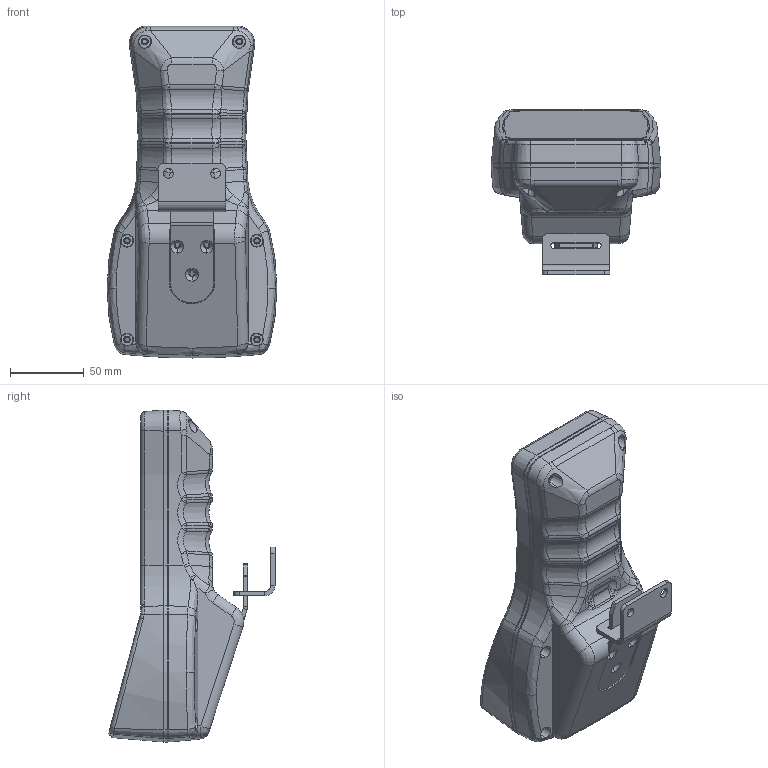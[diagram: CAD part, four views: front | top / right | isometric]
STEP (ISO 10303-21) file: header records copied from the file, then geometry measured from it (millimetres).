
FILE_DESCRIPTION (( 'STEP AP203' ), '1' );
FILE_NAME ('HH-092-K.STEP', '2024-06-29T06:19:23', ( '' ), ( '' ), 'SwSTEP 2.0', 'SolidWorks 2021', '' );
FILE_SCHEMA (( 'CONFIG_CONTROL_DESIGN' ));
Length unit declared in the file: millimetre
Products named in the file (6): HH-092-P-2_ekran_kapali; HH-092-S; A-108-P-1; HH-092-K; A-108-P-2; HH-092-P-1
Assembly tree (5 placements, depth 2):
  HH-092-K
    HH-092-P-1
    HH-092-S
    HH-092-P-2_ekran_kapali
    A-108-P-1
    A-108-P-2
Bounding box: 115 x 112.62 x 225 mm (x, y, z)
Volume: 232139.1 mm3; surface area: 178131.4 mm2
Topology: 5 solids, 5 shells, 1180 faces, 3004 edges, 1886 vertices
Faces by surface type: bspline 380, plane 254, cylinder 250, cone 238, torus 30, sphere 28
Entity records: 54173 total; most frequent: CARTESIAN_POINT 28118, ORIENTED_EDGE 6000, DIRECTION 4502, EDGE_CURVE 3000, VERTEX_POINT 1886, AXIS2_PLACEMENT_3D 1835, EDGE_LOOP 1274, FACE_OUTER_BOUND 1180
